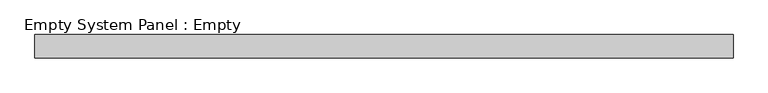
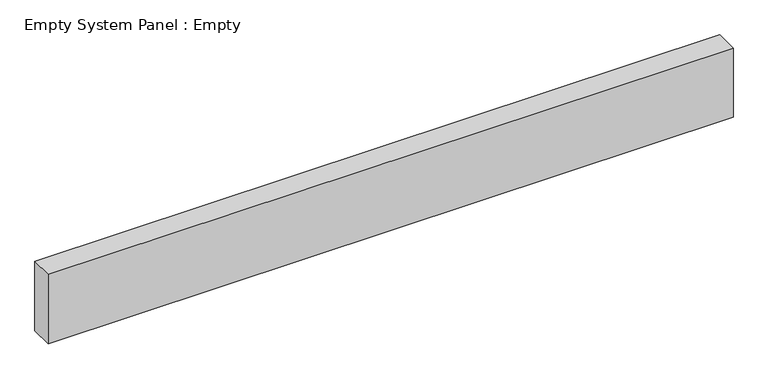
"""IFC4 building model written with IfcOpenShell, lengths in millimetres: plate geometry, Empty System Panel : Empty."""

from ifc_helpers import new_model, si_unit, origin, origin_with_axes, place, context, project, spatial, polyline, outline, extrude, source, transform, mapped, element, save


def empty_system_panel_empty_7f9a0b37(model_context):
    return source(origin(), model_context, "Body", "SweptSolid", [
        extrude(outline(polyline([(1500.0, -50.0), (-1500.0, -50.0), (-1500.0, 50.0), (1500.0, 50.0), (1500.0, -50.0)])), origin_with_axes(), (0.0, 0.0, 1.0), 321.5),
    ])


if __name__ == "__main__":
    model = new_model("IFC4")
    model_context = context("Model", 3, world=origin())
    ifc_project = project(units=[si_unit("LENGTHUNIT", "METRE", prefix="MILLI")], contexts=[model_context])
    site = spatial("IfcSite", under=ifc_project)
    building = spatial("IfcBuilding", under=site)
    placement = place(None, origin())
    empty_system_panel_empty_shape = empty_system_panel_empty_7f9a0b37(model_context)
    element("IfcPlate", 1, ObjectType="Empty System Panel : Empty", at=placement, inside=building, context=model_context, shape_type="MappedRepresentation", body=[
        mapped(empty_system_panel_empty_shape, transform((0.0, 0.0, 0.0), x_axis=(1.0, 0.0, 0.0), y_axis=(0.0, 1.0, 0.0), z_axis=(0.0, 0.0, 1.0))),
    ])
    save(model, "model.ifc")
